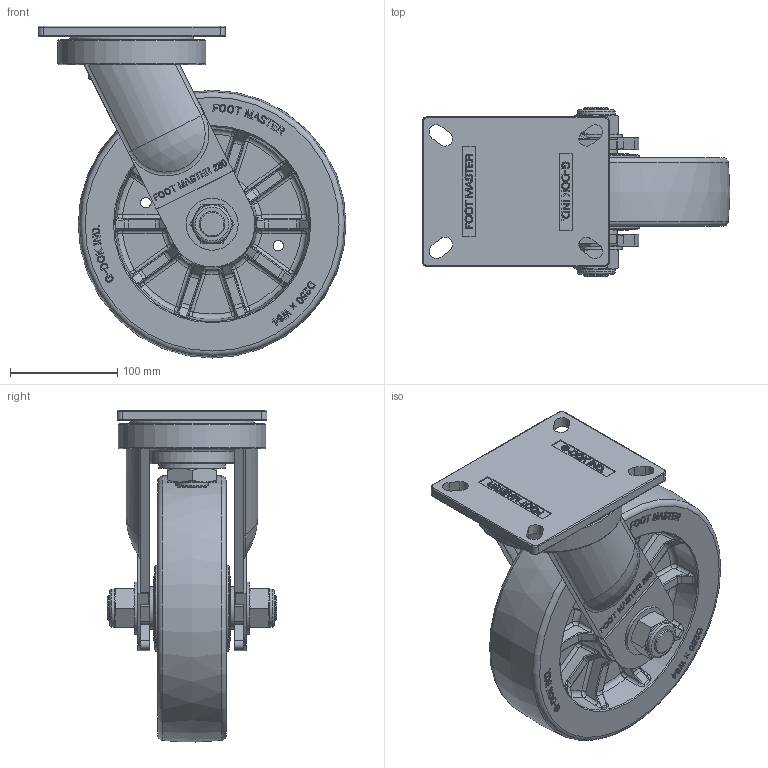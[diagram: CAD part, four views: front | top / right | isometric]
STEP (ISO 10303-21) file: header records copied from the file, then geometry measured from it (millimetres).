
FILE_DESCRIPTION(/* description */ (''),/* implementation_level */ '2;1');
FILE_NAME(/* name */ 'E:\개발도면\GXT-SERIES\GXT-250\\X2\D648D398C774C9C0C6A9B3C4BA74\X0\-20150318\STEP\GXT-250-ASF-HUD.stp',/* time_stamp */ '2015-03-19T10:23:27+09:00',/* author */ ('장용하'),/* organization */ (''),/* preprocessor_version */ 'ST-DEVELOPER v15.6',/* originating_system */ 'Autodesk Inventor 2015',/* authorisation */ '');
FILE_SCHEMA (('AUTOMOTIVE_DESIGN { 1 0 10303 214 3 1 1 }'));
Products named in the file (1): GXT-250-ASF-HUD
Bounding box: 287.5 x 158 x 309.98 mm (x, y, z)
Volume: 3230396.9 mm3; surface area: 409199.5 mm2
Topology: 1 solids, 3 shells, 2120 faces, 5436 edges, 3447 vertices
Faces by surface type: plane 872, bspline 853, cylinder 272, torus 65, cone 54, sphere 4
Full cylindrical faces by diameter (mm): 24 x2, 30 x1, 35.4 x2, 40 x2, 40.24 x2, 48.7 x2, 51.76 x2, 62.5 x1, 80 x1, 138 x1
Entity records: 73837 total; most frequent: CARTESIAN_POINT 27094, ORIENTED_EDGE 10742, DIRECTION 7248, EDGE_CURVE 5371, VERTEX_POINT 3429, LINE 2766, VECTOR 2766, EDGE_LOOP 2306
